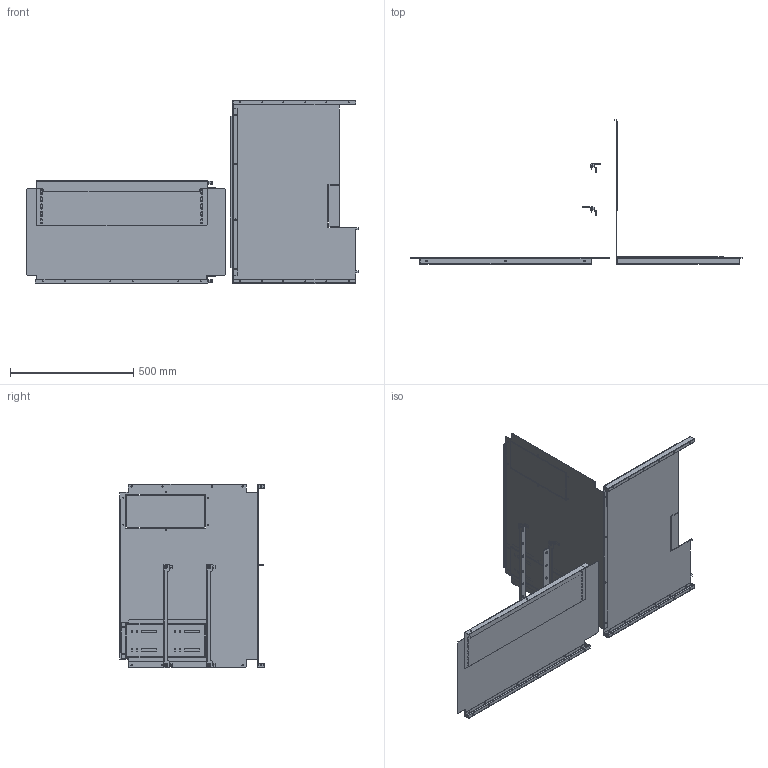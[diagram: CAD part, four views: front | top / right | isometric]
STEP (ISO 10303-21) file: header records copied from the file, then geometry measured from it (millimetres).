
FILE_DESCRIPTION(('CAx-IF Rec.Pracs.---Model Styling and Organization---1.2---2011-12-15','CAx-IF Rec.Pracs.---Geometric and Assembly Validation Properties---4.1---2014-06-16','CAx-IF Rec.Pracs.---PMI Polyline Presentation---2.0---2013-05-24'),'2;1');
FILE_NAME('R5FCMS68680 (NW08-25W).stp','2021-05-06T02:44:24+03:00',(''),(''),'STEP Interface 4.4 by CT CoreTechnologie','3D_Evolution4.4 by CT CoreTechnologie','');
FILE_SCHEMA(('AUTOMOTIVE_DESIGN { 1 0 10303 214 1 1 1 1 }'));
Length unit declared in the file: millimetre
Products named in the file (11): R5FCMS68680 (NW08-25W); RB.0778.00.00.1_-00; M6x16-DIN 7985 ISR_thread; AC00C485; RB.0697.00.00.1_-01; RB.0780.00.00.1_-01; RB.0779.00.00.1_-03; RB.0776.00.00.1_-01; RB.0697.00.00.1_-02; RB.1168.00.00.0_-03; RB.0777.00.00.1_-03
Assembly tree (18 placements, depth 2):
  R5FCMS68680 (NW08-25W)
    RB.0778.00.00.1_-00
    M6x16-DIN 7985 ISR_thread  x4
    AC00C485  x4
    RB.0697.00.00.1_-01  x2
    RB.0780.00.00.1_-01  x2
    RB.0779.00.00.1_-03
    RB.0776.00.00.1_-01
    RB.0697.00.00.1_-02
    RB.1168.00.00.0_-03
    RB.0777.00.00.1_-03
Bounding box: 1345.9 x 585.5 x 744 mm (x, y, z)
Surface area: 2811212.7 mm2 (no closed solid volume)
Topology: 0 solids, 28 shells, 1062 faces, 2814 edges, 1796 vertices
Faces by surface type: plane 546, cylinder 448, bspline 68
Entity records: 23211 total; most frequent: CARTESIAN_POINT 4422, DIRECTION 3743, ORIENTED_EDGE 3712, EDGE_CURVE 1856, VECTOR 1289, LINE 1289, AXIS2_PLACEMENT_3D 1227, VERTEX_POINT 1210
